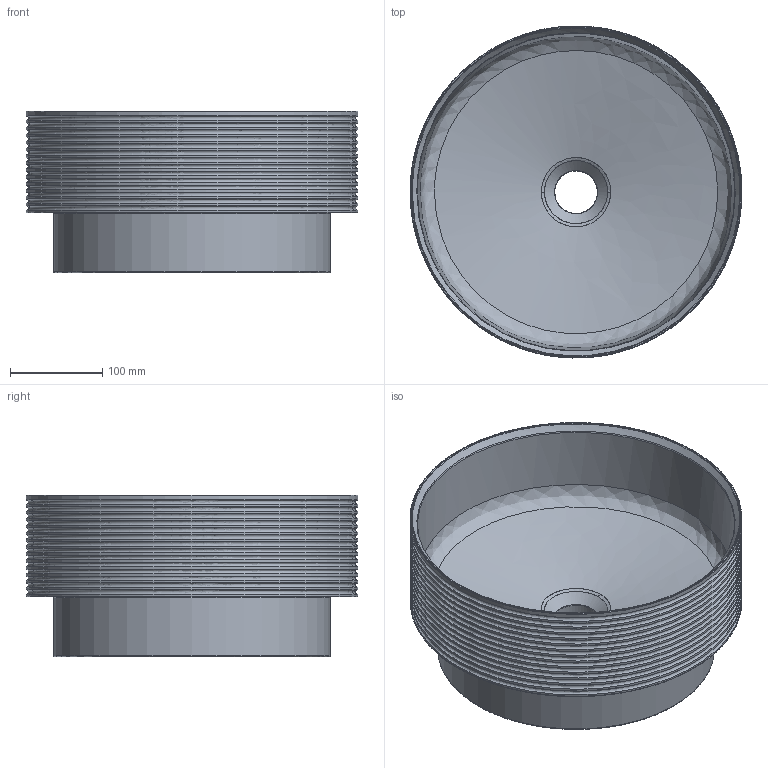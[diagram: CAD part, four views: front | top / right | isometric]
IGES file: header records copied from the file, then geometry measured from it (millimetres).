
Global section: file name: C:\Users\hp\Desktop\00621_Pap; native system: Rhinoceros ( Sep 10 2024 ); preprocessor: Trout Lake IGES 012 Sep 10 2024; date: 241016.081646; units: millimetre
Bounding box: 359.93 x 359.85 x 175 mm (x, y, z)
Surface area: 710321.2 mm2 (no closed solid volume)
Topology: 0 solids, 0 shells, 65 faces, 201 edges, 138 vertices
Faces by surface type: bspline 65
